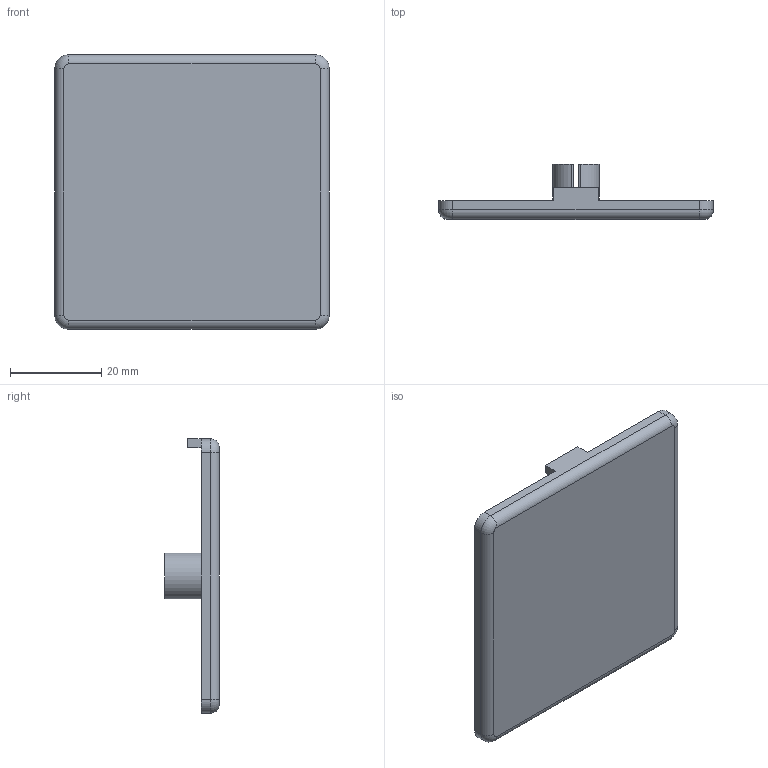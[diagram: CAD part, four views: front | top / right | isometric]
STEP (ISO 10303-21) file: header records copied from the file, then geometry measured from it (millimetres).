
FILE_DESCRIPTION (( 'STEP AP214' ), '1' );
FILE_NAME ('4006.STEP', '2017-08-10T06:14:07', ( '' ), ( '' ), 'SwSTEP 2.0', 'SolidWorks 2014', '' );
FILE_SCHEMA (( 'AUTOMOTIVE_DESIGN' ));
Length unit declared in the file: millimetre
Products named in the file (2): 4006
Bounding box: 60 x 12 x 60 mm (x, y, z)
Volume: 8263 mm3; surface area: 8992.1 mm2
Topology: 1 solids, 1 shells, 50 faces, 130 edges, 84 vertices
Faces by surface type: cylinder 26, plane 20, torus 4
Entity records: 1595 total; most frequent: DIRECTION 290, CARTESIAN_POINT 266, ORIENTED_EDGE 260, EDGE_CURVE 130, AXIS2_PLACEMENT_3D 108, VERTEX_POINT 84, LINE 74, VECTOR 74
